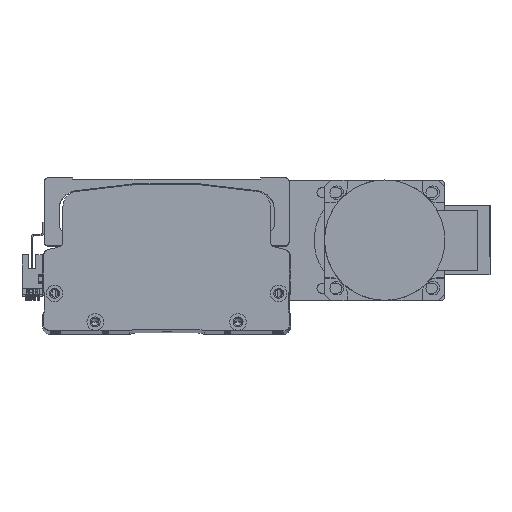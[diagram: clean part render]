
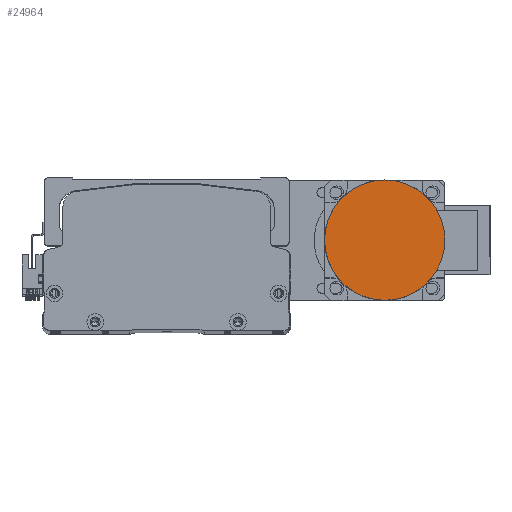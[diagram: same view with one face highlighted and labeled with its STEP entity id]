
A CAD part, top view. The second image highlights one B-rep face of the part: STEP entity #24964.
In plain terms, the highlighted planar face has unit normal (0, 0, 1) as drawn and (0, -1, 0) by its records, which use the part's own axes.
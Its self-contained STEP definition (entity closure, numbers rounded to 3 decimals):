
#3657 = CARTESIAN_POINT ( 'NONE',  ( 0., -27., 0. ) ) ;
#3788 = AXIS2_PLACEMENT_3D ( 'NONE', #16868, #51194, #21803 ) ;
#12452 = EDGE_CURVE ( 'NONE', #44035, #25867, #37947, .T. ) ;
#16868 = CARTESIAN_POINT ( 'NONE',  ( 0., -27., 0. ) ) ;
#21448 = CIRCLE ( 'NONE', #63230, 40. ) ;
#21803 = DIRECTION ( 'NONE',  ( 0., 0., -1. ) ) ;
#21950 = CARTESIAN_POINT ( 'NONE',  ( 0., -27., 40. ) ) ;
#23409 = DIRECTION ( 'NONE',  ( 0., 1., 0. ) ) ;
#24964 = ADVANCED_FACE ( 'NONE', ( #33219 ), #52803, .F. ) ;
#25861 = CARTESIAN_POINT ( 'NONE',  ( 0., -27., 0. ) ) ;
#25867 = VERTEX_POINT ( 'NONE', #45043 ) ;
#30786 = DIRECTION ( 'NONE',  ( 0., 0., -1. ) ) ;
#33219 = FACE_OUTER_BOUND ( 'NONE', #61078, .T. ) ;
#37947 = CIRCLE ( 'NONE', #3788, 40. ) ;
#43757 = AXIS2_PLACEMENT_3D ( 'NONE', #3657, #23409, #57798 ) ;
#44035 = VERTEX_POINT ( 'NONE', #21950 ) ;
#45043 = CARTESIAN_POINT ( 'NONE',  ( 0., -27., -40. ) ) ;
#49827 = EDGE_CURVE ( 'NONE', #25867, #44035, #21448, .T. ) ;
#51194 = DIRECTION ( 'NONE',  ( 0., -1., 0. ) ) ;
#52803 = PLANE ( 'NONE',  #43757 ) ;
#55408 = ORIENTED_EDGE ( 'NONE', *, *, #12452, .T. ) ;
#56735 = ORIENTED_EDGE ( 'NONE', *, *, #49827, .T. ) ;
#57798 = DIRECTION ( 'NONE',  ( 0., 0., 1. ) ) ;
#60258 = DIRECTION ( 'NONE',  ( 0., -1., 0. ) ) ;
#61078 = EDGE_LOOP ( 'NONE', ( #56735, #55408 ) ) ;
#63230 = AXIS2_PLACEMENT_3D ( 'NONE', #25861, #60258, #30786 ) ;
